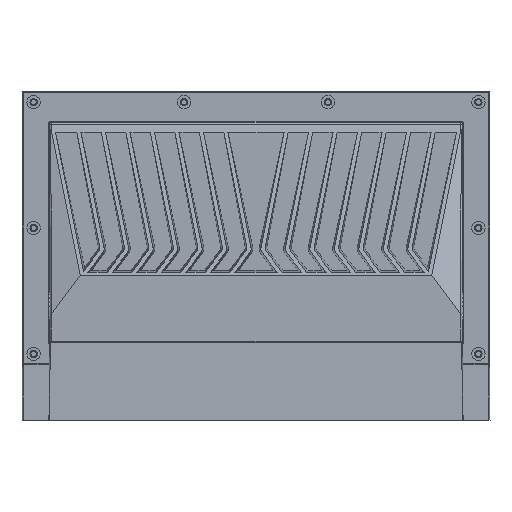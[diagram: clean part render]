
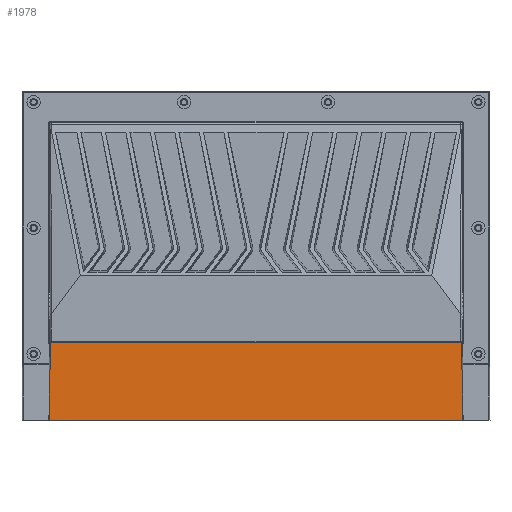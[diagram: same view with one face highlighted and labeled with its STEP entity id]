
A CAD part, top view. The second image highlights one B-rep face of the part: STEP entity #1978.
In plain terms, the highlighted planar face has unit normal (0, 0.009, 1) as drawn and (0, -1, -0.009) by its records, which use the part's own axes.
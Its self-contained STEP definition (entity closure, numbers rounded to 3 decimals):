
#27=DIRECTION('',(1.,0.,0.));
#28=VECTOR('',#27,309.075);
#29=CARTESIAN_POINT('',(-154.537,-62.,-0.46));
#30=LINE('',#29,#28);
#63=DIRECTION('',(0.009,-0.009,1.));
#64=VECTOR('',#63,58.464);
#65=CARTESIAN_POINT('',(154.537,-62.,-0.46));
#66=LINE('',#65,#64);
#71=DIRECTION('',(-0.009,-0.009,1.));
#72=VECTOR('',#71,58.464);
#73=CARTESIAN_POINT('',(-154.537,-62.,-0.46));
#74=LINE('',#73,#72);
#173=DIRECTION('',(-1.,0.,0.));
#174=VECTOR('',#173,310.086);
#175=CARTESIAN_POINT('',(155.043,-62.51,58.));
#176=LINE('',#175,#174);
#1507=CARTESIAN_POINT('',(-154.537,-62.,-0.46));
#1508=VERTEX_POINT('',#1507);
#1509=CARTESIAN_POINT('',(154.537,-62.,-0.46));
#1510=VERTEX_POINT('',#1509);
#1535=CARTESIAN_POINT('',(155.043,-62.51,58.));
#1536=VERTEX_POINT('',#1535);
#1544=CARTESIAN_POINT('',(-155.043,-62.51,58.));
#1545=VERTEX_POINT('',#1544);
#1965=CARTESIAN_POINT('',(-163.358,-62.,-0.46));
#1966=DIRECTION('',(0.,1.,0.009));
#1967=DIRECTION('',(-1.,0.,0.));
#1968=AXIS2_PLACEMENT_3D('',#1965,#1966,#1967);
#1969=PLANE('',#1968);
#1970=ORIENTED_EDGE('',*,*,#1946,.F.);
#1971=ORIENTED_EDGE('',*,*,#1860,.F.);
#1973=ORIENTED_EDGE('',*,*,#1972,.T.);
#1975=ORIENTED_EDGE('',*,*,#1974,.F.);
#1976=EDGE_LOOP('',(#1970,#1971,#1973,#1975));
#1977=FACE_OUTER_BOUND('',#1976,.F.);
#1978=ADVANCED_FACE('',(#1977),#1969,.F.);
#1860=EDGE_CURVE('',#1508,#1510,#30,.T.);
#1946=EDGE_CURVE('',#1510,#1536,#66,.T.);
#1972=EDGE_CURVE('',#1508,#1545,#74,.T.);
#1974=EDGE_CURVE('',#1536,#1545,#176,.T.);
